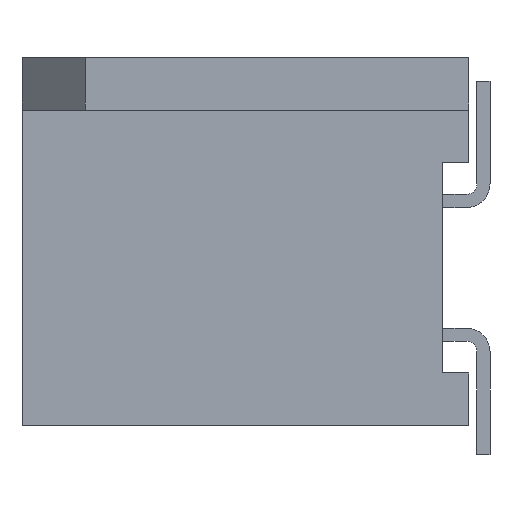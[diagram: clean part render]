
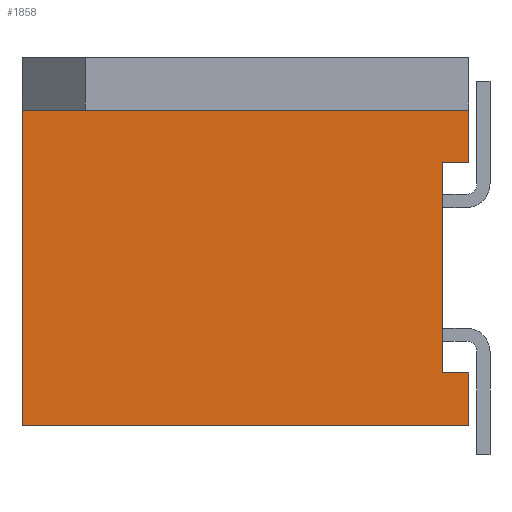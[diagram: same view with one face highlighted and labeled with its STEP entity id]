
A CAD part, left-side view. The second image highlights one B-rep face of the part: STEP entity #1858.
In plain terms, the highlighted planar face has unit normal (-1, 0, 0).
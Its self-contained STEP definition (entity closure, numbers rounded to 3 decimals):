
#68 = VERTEX_POINT ( 'NONE', #551 ) ;
#99 = CARTESIAN_POINT ( 'NONE',  ( -12.7, 0., -4.5 ) ) ;
#104 = LINE ( 'NONE', #1131, #126 ) ;
#113 = EDGE_CURVE ( 'NONE', #267, #1657, #1086, .T. ) ;
#119 = ORIENTED_EDGE ( 'NONE', *, *, #1240, .T. ) ;
#126 = VECTOR ( 'NONE', #1982, 1000. ) ;
#132 = VERTEX_POINT ( 'NONE', #179 ) ;
#134 = LINE ( 'NONE', #969, #1162 ) ;
#179 = CARTESIAN_POINT ( 'NONE',  ( -12.7, 0., -0.5 ) ) ;
#186 = VERTEX_POINT ( 'NONE', #534 ) ;
#191 = ORIENTED_EDGE ( 'NONE', *, *, #1751, .F. ) ;
#215 = DIRECTION ( 'NONE',  ( 0., 0., 1. ) ) ;
#267 = VERTEX_POINT ( 'NONE', #388 ) ;
#316 = DIRECTION ( 'NONE',  ( 0., -1., 0. ) ) ;
#317 = CARTESIAN_POINT ( 'NONE',  ( -12.7, 8.5, 0.5 ) ) ;
#350 = EDGE_CURVE ( 'NONE', #1498, #267, #1815, .T. ) ;
#385 = VERTEX_POINT ( 'NONE', #1850 ) ;
#388 = CARTESIAN_POINT ( 'NONE',  ( -12.7, 0.5, -4.5 ) ) ;
#399 = CARTESIAN_POINT ( 'NONE',  ( -12.7, 0.5, -0.5 ) ) ;
#519 = VECTOR ( 'NONE', #316, 1000. ) ;
#534 = CARTESIAN_POINT ( 'NONE',  ( -12.7, 0., -5.5 ) ) ;
#543 = VECTOR ( 'NONE', #1076, 1000. ) ;
#544 = CARTESIAN_POINT ( 'NONE',  ( -12.7, 8.5, -5. ) ) ;
#551 = CARTESIAN_POINT ( 'NONE',  ( -12.7, 0., 0.5 ) ) ;
#592 = EDGE_CURVE ( 'NONE', #132, #1498, #1208, .T. ) ;
#595 = DIRECTION ( 'NONE',  ( 0., 0., -1. ) ) ;
#608 = VECTOR ( 'NONE', #595, 1000. ) ;
#628 = DIRECTION ( 'NONE',  ( 0., 0., 1. ) ) ;
#681 = DIRECTION ( 'NONE',  ( 0., 1., 0. ) ) ;
#704 = EDGE_LOOP ( 'NONE', ( #1882, #834, #1012, #1546, #901, #191, #1493, #119 ) ) ;
#743 = PLANE ( 'NONE',  #1222 ) ;
#834 = ORIENTED_EDGE ( 'NONE', *, *, #350, .F. ) ;
#852 = EDGE_CURVE ( 'NONE', #132, #68, #134, .T. ) ;
#855 = LINE ( 'NONE', #1736, #519 ) ;
#901 = ORIENTED_EDGE ( 'NONE', *, *, #939, .T. ) ;
#930 = VECTOR ( 'NONE', #681, 1000. ) ;
#939 = EDGE_CURVE ( 'NONE', #68, #2195, #1072, .T. ) ;
#969 = CARTESIAN_POINT ( 'NONE',  ( -12.7, 0., -5. ) ) ;
#1012 = ORIENTED_EDGE ( 'NONE', *, *, #592, .F. ) ;
#1072 = LINE ( 'NONE', #317, #930 ) ;
#1076 = DIRECTION ( 'NONE',  ( 0., -1., 0. ) ) ;
#1086 = LINE ( 'NONE', #1595, #543 ) ;
#1094 = CARTESIAN_POINT ( 'NONE',  ( -12.7, 0., -5. ) ) ;
#1131 = CARTESIAN_POINT ( 'NONE',  ( -12.7, 0., -5. ) ) ;
#1162 = VECTOR ( 'NONE', #628, 1000. ) ;
#1208 = LINE ( 'NONE', #1914, #2124 ) ;
#1222 = AXIS2_PLACEMENT_3D ( 'NONE', #1094, #1780, #215 ) ;
#1240 = EDGE_CURVE ( 'NONE', #186, #1657, #104, .T. ) ;
#1250 = DIRECTION ( 'NONE',  ( 0., 0., 1. ) ) ;
#1437 = LINE ( 'NONE', #544, #1823 ) ;
#1449 = FACE_OUTER_BOUND ( 'NONE', #704, .T. ) ;
#1493 = ORIENTED_EDGE ( 'NONE', *, *, #2072, .T. ) ;
#1498 = VERTEX_POINT ( 'NONE', #399 ) ;
#1546 = ORIENTED_EDGE ( 'NONE', *, *, #852, .T. ) ;
#1595 = CARTESIAN_POINT ( 'NONE',  ( -12.7, 0., -4.5 ) ) ;
#1657 = VERTEX_POINT ( 'NONE', #99 ) ;
#1736 = CARTESIAN_POINT ( 'NONE',  ( -12.7, 8.5, -5.5 ) ) ;
#1751 = EDGE_CURVE ( 'NONE', #385, #2195, #1437, .T. ) ;
#1780 = DIRECTION ( 'NONE',  ( -1., 0., 0. ) ) ;
#1795 = CARTESIAN_POINT ( 'NONE',  ( -12.7, 8.5, 0.5 ) ) ;
#1815 = LINE ( 'NONE', #2157, #608 ) ;
#1823 = VECTOR ( 'NONE', #1250, 1000. ) ;
#1850 = CARTESIAN_POINT ( 'NONE',  ( -12.7, 8.5, -5.5 ) ) ;
#1858 = ADVANCED_FACE ( 'NONE', ( #1449 ), #743, .T. ) ;
#1882 = ORIENTED_EDGE ( 'NONE', *, *, #113, .F. ) ;
#1914 = CARTESIAN_POINT ( 'NONE',  ( -12.7, 0., -0.5 ) ) ;
#1982 = DIRECTION ( 'NONE',  ( 0., 0., 1. ) ) ;
#2066 = DIRECTION ( 'NONE',  ( 0., 1., 0. ) ) ;
#2072 = EDGE_CURVE ( 'NONE', #385, #186, #855, .T. ) ;
#2124 = VECTOR ( 'NONE', #2066, 1000. ) ;
#2157 = CARTESIAN_POINT ( 'NONE',  ( -12.7, 0.5, -1.099 ) ) ;
#2195 = VERTEX_POINT ( 'NONE', #1795 ) ;
